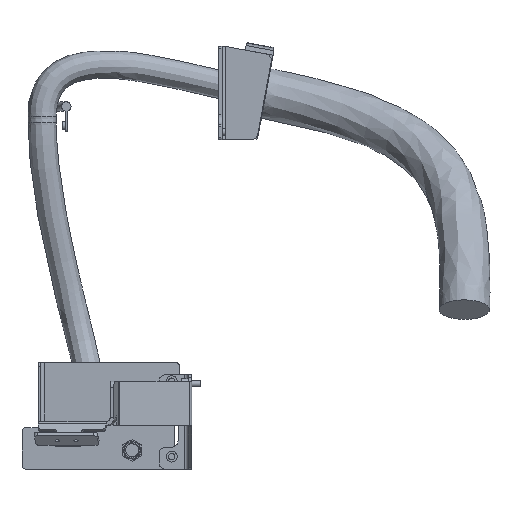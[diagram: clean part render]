
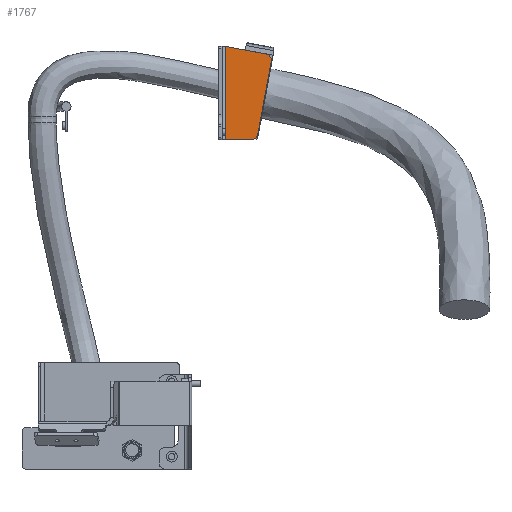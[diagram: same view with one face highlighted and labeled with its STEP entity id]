
A CAD part, left-side view. The second image highlights one B-rep face of the part: STEP entity #1767.
In plain terms, the highlighted planar face has unit normal (-1, 0, 0).
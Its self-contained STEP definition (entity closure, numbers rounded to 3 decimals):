
#9 = DIRECTION ( 'NONE',  ( 0., -1., 0. ) ) ;
#470 = DIRECTION ( 'NONE',  ( -1., 0., 0. ) ) ;
#566 = LINE ( 'NONE', #13129, #9084 ) ;
#663 = VECTOR ( 'NONE', #12937, 1000. ) ;
#1010 = EDGE_LOOP ( 'NONE', ( #9384, #2619, #8980, #8938, #9617, #2290 ) ) ;
#1016 = CARTESIAN_POINT ( 'NONE',  ( 899., -191.741, 1996.167 ) ) ;
#1363 = AXIS2_PLACEMENT_3D ( 'NONE', #10472, #3356, #12576 ) ;
#1585 = CIRCLE ( 'NONE', #1845, 10. ) ;
#1767 = ADVANCED_FACE ( 'NONE', ( #9692 ), #14276, .F. ) ;
#1845 = AXIS2_PLACEMENT_3D ( 'NONE', #7547, #470, #14153 ) ;
#2002 = EDGE_CURVE ( 'NONE', #3885, #5797, #3680, .T. ) ;
#2290 = ORIENTED_EDGE ( 'NONE', *, *, #2002, .F. ) ;
#2619 = ORIENTED_EDGE ( 'NONE', *, *, #11555, .T. ) ;
#3356 = DIRECTION ( 'NONE',  ( -1., 0., 0. ) ) ;
#3548 = LINE ( 'NONE', #8056, #8147 ) ;
#3680 = LINE ( 'NONE', #12761, #13801 ) ;
#3694 = DIRECTION ( 'NONE',  ( 1., 0., 0. ) ) ;
#3885 = VERTEX_POINT ( 'NONE', #8225 ) ;
#3923 = LINE ( 'NONE', #14279, #663 ) ;
#4744 = CIRCLE ( 'NONE', #1363, 10. ) ;
#5171 = AXIS2_PLACEMENT_3D ( 'NONE', #8569, #3694, #7157 ) ;
#5797 = VERTEX_POINT ( 'NONE', #6020 ) ;
#6020 = CARTESIAN_POINT ( 'NONE',  ( 899., -140., 2136. ) ) ;
#6829 = EDGE_CURVE ( 'NONE', #10623, #12210, #4744, .T. ) ;
#6873 = VERTEX_POINT ( 'NONE', #7946 ) ;
#7157 = DIRECTION ( 'NONE',  ( 0., 1., 0. ) ) ;
#7547 = CARTESIAN_POINT ( 'NONE',  ( 899., -181.91, 1998. ) ) ;
#7946 = CARTESIAN_POINT ( 'NONE',  ( 899., -181.91, 1988. ) ) ;
#8030 = EDGE_CURVE ( 'NONE', #10623, #8992, #3923, .T. ) ;
#8056 = CARTESIAN_POINT ( 'NONE',  ( 899., -135., 1988. ) ) ;
#8147 = VECTOR ( 'NONE', #9, 1000. ) ;
#8225 = CARTESIAN_POINT ( 'NONE',  ( 899., -140., 1988. ) ) ;
#8569 = CARTESIAN_POINT ( 'NONE',  ( 899., -135., 2136. ) ) ;
#8938 = ORIENTED_EDGE ( 'NONE', *, *, #6829, .T. ) ;
#8980 = ORIENTED_EDGE ( 'NONE', *, *, #8030, .F. ) ;
#8992 = VERTEX_POINT ( 'NONE', #1016 ) ;
#9084 = VECTOR ( 'NONE', #11025, 1000. ) ;
#9384 = ORIENTED_EDGE ( 'NONE', *, *, #14660, .T. ) ;
#9617 = ORIENTED_EDGE ( 'NONE', *, *, #13495, .F. ) ;
#9692 = FACE_OUTER_BOUND ( 'NONE', #1010, .T. ) ;
#10472 = CARTESIAN_POINT ( 'NONE',  ( 899., -203.54, 2113.978 ) ) ;
#10623 = VERTEX_POINT ( 'NONE', #12131 ) ;
#10806 = DIRECTION ( 'NONE',  ( 0., 0., 1. ) ) ;
#11025 = DIRECTION ( 'NONE',  ( 0., -0.983, -0.183 ) ) ;
#11342 = CARTESIAN_POINT ( 'NONE',  ( 899., -205.373, 2123.808 ) ) ;
#11555 = EDGE_CURVE ( 'NONE', #6873, #8992, #1585, .T. ) ;
#12131 = CARTESIAN_POINT ( 'NONE',  ( 899., -213.37, 2112.144 ) ) ;
#12210 = VERTEX_POINT ( 'NONE', #11342 ) ;
#12576 = DIRECTION ( 'NONE',  ( 0., 1., 0. ) ) ;
#12761 = CARTESIAN_POINT ( 'NONE',  ( 899., -140., 1988. ) ) ;
#12937 = DIRECTION ( 'NONE',  ( 0., 0.183, -0.983 ) ) ;
#13129 = CARTESIAN_POINT ( 'NONE',  ( 899., -135.168, 2136.901 ) ) ;
#13495 = EDGE_CURVE ( 'NONE', #5797, #12210, #566, .T. ) ;
#13801 = VECTOR ( 'NONE', #10806, 1000. ) ;
#14153 = DIRECTION ( 'NONE',  ( 0., 1., 0. ) ) ;
#14276 = PLANE ( 'NONE',  #5171 ) ;
#14279 = CARTESIAN_POINT ( 'NONE',  ( 899., -215.035, 2121.074 ) ) ;
#14660 = EDGE_CURVE ( 'NONE', #3885, #6873, #3548, .T. ) ;
